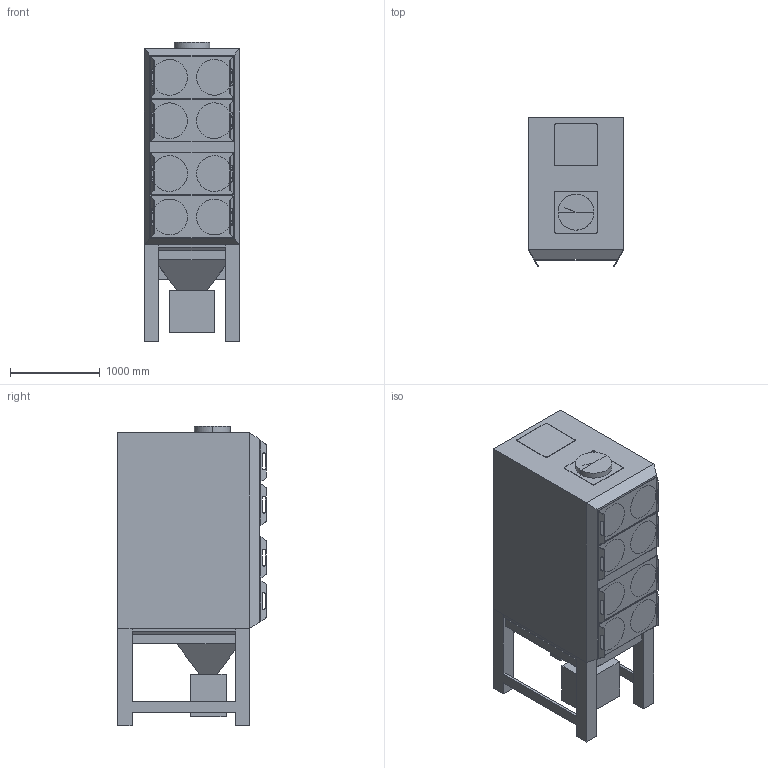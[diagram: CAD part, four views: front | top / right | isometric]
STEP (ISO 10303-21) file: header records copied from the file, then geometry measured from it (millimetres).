
FILE_DESCRIPTION(/* description */ ('Generated from Alias Stage'),/* implementation_level */ '2;1');
FILE_NAME(/* name */ 'CFE8 B',/* time_stamp */ '2016-11-29T15:06:53+01:00',/* author */ (''),/* organization */ ('Autodesk Alias'),/* preprocessor_version */ 'ST-DEVELOPER v11',/* originating_system */ 'Autodesk OpenModel 2016',/* authorisation */ '');
FILE_SCHEMA (('AUTOMOTIVE_DESIGN { 1 2 10303 214 1 1 1 1 }'));
Length unit declared in the file: millimetre
Products named in the file (1): CFE8 B
Bounding box: 1060 x 1654.68 x 3334.07 mm (x, y, z)
Volume: 3960405865.3 mm3; surface area: 23095691.3 mm2
Topology: 1 solids, 1 shells, 295 faces, 794 edges, 509 vertices
Faces by surface type: bspline 295
Entity records: 16486 total; most frequent: CARTESIAN_POINT 12618, ORIENTED_EDGE 1580, EDGE_CURVE 790, VERTEX_POINT 509, EDGE_LOOP 335, FACE_OUTER_BOUND 295, ADVANCED_FACE 295, FACE_BOUND 40
